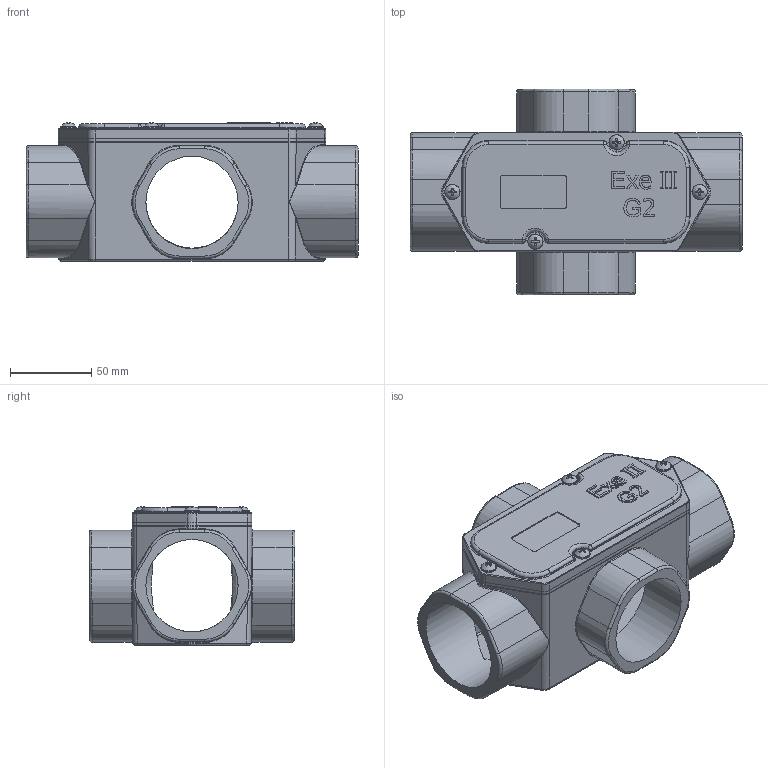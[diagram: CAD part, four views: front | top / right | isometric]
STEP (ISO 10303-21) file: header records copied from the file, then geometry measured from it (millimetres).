
FILE_DESCRIPTION((''),'2;1');
FILE_NAME('C:\Users\A.V.Nesterov\Desktop\111\3D\ТЗ\ТЗ 103121\СКВЕ-К6_3D.stp','2024-04-01T22:46:30',('A.V.Nesterov'),(''),'Autodesk Inventor 2012','Autodesk Inventor 2012','');
FILE_SCHEMA(('AUTOMOTIVE_DESIGN { 1 0 10303 214 1 1 1 1 }'));
Length unit declared in the file: millimetre
Products named in the file (1): СКВЕ-К6_3D
Bounding box: 204 x 126.47 x 85.4 mm (x, y, z)
Surface area: 159579.1 mm2 (no closed solid volume)
Topology: 0 solids, 7 shells, 648 faces, 1644 edges, 1018 vertices
Faces by surface type: plane 247, cylinder 172, bspline 109, torus 74, cone 34, sphere 12
Full cylindrical faces by diameter (mm): 4.1 x4, 4.9 x4, 5.7 x8, 56.7 x4
Entity records: 22536 total; most frequent: CARTESIAN_POINT 6869, ORIENTED_EDGE 3134, DIRECTION 3023, EDGE_CURVE 1567, AXIS2_PLACEMENT_3D 1122, VERTEX_POINT 994, VECTOR 779, LINE 779
